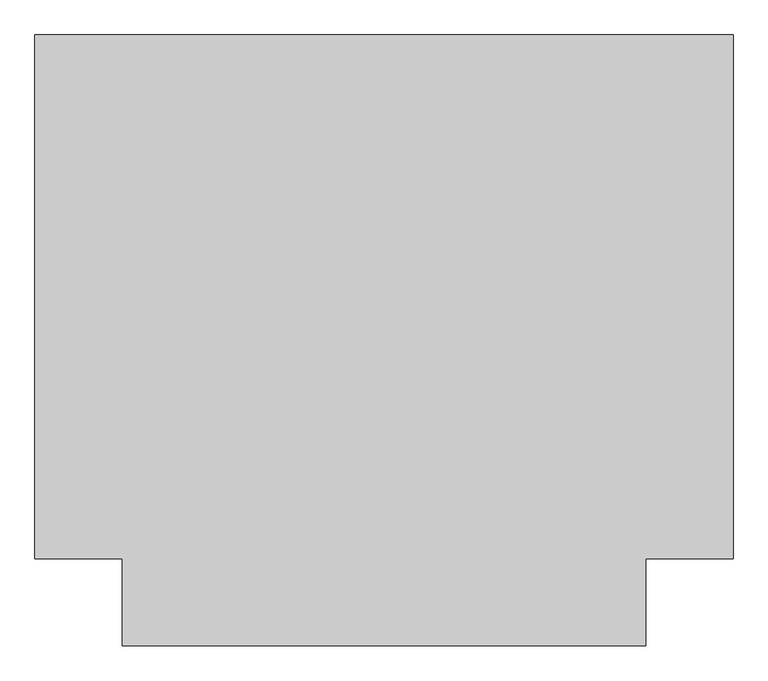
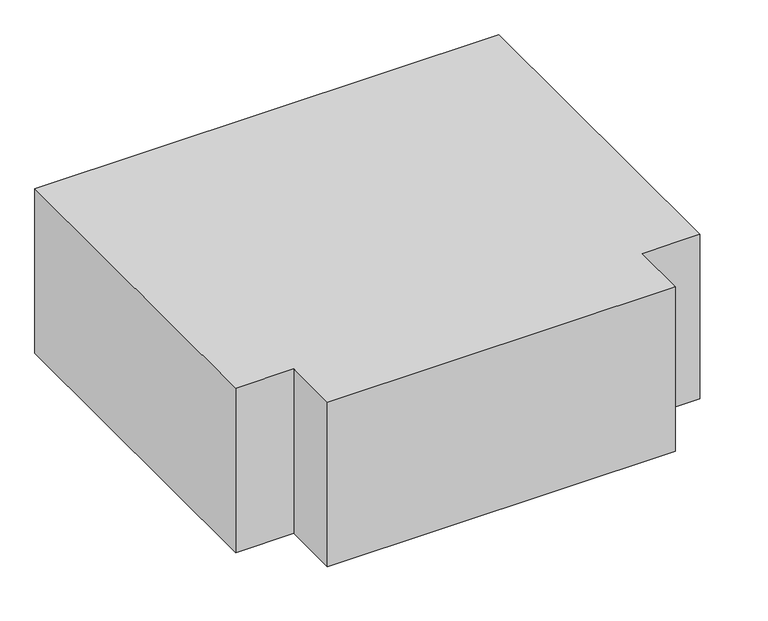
"""IFC4 building model written with IfcOpenShell, lengths in millimetres: duct fitting geometry, M_Переходный тройник прямоугольного сечения - DTL : Стандартное."""

from ifc_helpers import new_model, si_unit, frame, origin, place, context, project, spatial, polyline, outline, extrude, source, transform, mapped, element, save


def duct_fitting_f00111ba(model_context):
    return source(origin(), model_context, "Body", "SweptSolid", [
        extrude(outline(polyline([(-600.0, -450.0), (-600.0, 450.0), (600.0, 450.0), (600.0, -450.0), (450.0, -450.0), (450.0, -600.0), (-450.0, -600.0), (-450.0, -450.0), (-600.0, -450.0)])), frame((0.0, 0.0, -225.0), z_axis=(0.0, 0.0, 1.0), x_axis=(1.0, 0.0, 0.0)), (0.0, 0.0, 1.0), 450.0),
    ])


if __name__ == "__main__":
    model = new_model("IFC4")
    model_context = context("Model", 3, world=origin())
    ifc_project = project(units=[si_unit("LENGTHUNIT", "METRE", prefix="MILLI")], contexts=[model_context])
    site = spatial("IfcSite", under=ifc_project)
    building = spatial("IfcBuilding", under=site)
    placement = place(None, origin())
    duct_fitting_shape = duct_fitting_f00111ba(model_context)
    element("IfcDuctFitting", 1, ObjectType="M_Переходный тройник прямоугольного сечения - DTL : Стандартное", at=placement, inside=building, context=model_context, shape_type="MappedRepresentation", body=[
        mapped(duct_fitting_shape, transform((0.0, 0.0, 0.0), x_axis=(1.0, 0.0, 0.0), y_axis=(0.0, 1.0, 0.0), z_axis=(0.0, 0.0, 1.0))),
    ])
    save(model, "model.ifc")
